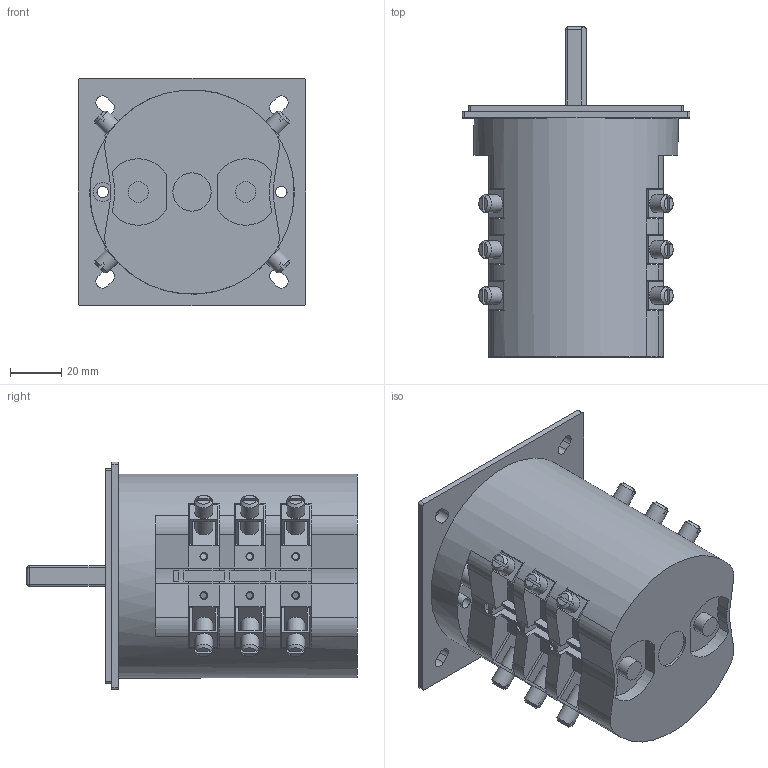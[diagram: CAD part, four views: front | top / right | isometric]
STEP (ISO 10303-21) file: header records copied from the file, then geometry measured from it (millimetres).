
FILE_DESCRIPTION(/* description */ (''),/* implementation_level */ '2;1');
FILE_NAME(/* name */ '4G80-U_3_korpusy.stp',/* time_stamp */ '2021-07-22T07:12:28+02:00',/* author */ (''),/* organization */ (''),/* preprocessor_version */ 'ST-DEVELOPER v18.1',/* originating_system */ 'SIEMENS PLM Software NX 1965',/* authorisation */ '');
FILE_SCHEMA (('AUTOMOTIVE_DESIGN { 1 0 10303 214 3 1 1 1 }'));
Length unit declared in the file: millimetre
Products named in the file (1): 4G80-U_3_korpusy_stp
Bounding box: 89.2 x 129.25 x 89.2 mm (x, y, z)
Volume: 426752.5 mm3; surface area: 76151.8 mm2
Topology: 1 solids, 17 shells, 622 faces, 1610 edges, 1070 vertices
Faces by surface type: plane 436, cylinder 147, cone 36, bspline 3
Full cylindrical faces by diameter (mm): 2.5 x12, 4.5 x2, 7 x24, 7.5 x2, 8 x4, 8.5 x2, 11.6 x2, 12 x3, 15 x1, 80 x1
Entity records: 19153 total; most frequent: CARTESIAN_POINT 4260, DIRECTION 3025, ORIENTED_EDGE 2984, EDGE_CURVE 1492, LINE 1045, VECTOR 1045, VERTEX_POINT 1023, AXIS2_PLACEMENT_3D 990
